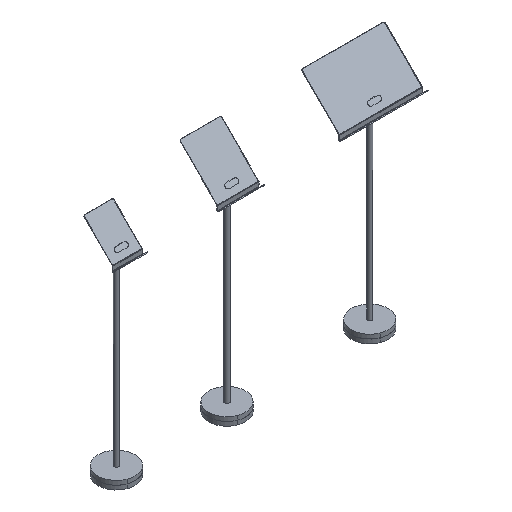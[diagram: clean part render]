
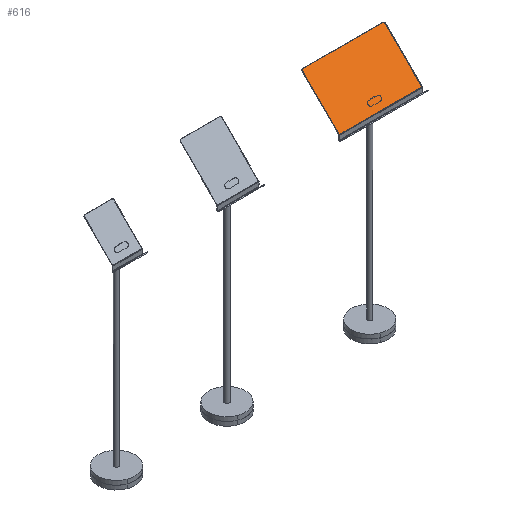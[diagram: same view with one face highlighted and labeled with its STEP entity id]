
A CAD part, isometric view. The second image highlights one B-rep face of the part: STEP entity #616.
In plain terms, the highlighted planar face has unit normal (0, -0.707, 0.707).
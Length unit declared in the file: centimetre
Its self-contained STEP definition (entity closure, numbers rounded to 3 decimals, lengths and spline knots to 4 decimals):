
#616=ADVANCED_FACE('',(#754),#2295,.T.);
#754=FACE_OUTER_BOUND('',#896,.T.);
#896=EDGE_LOOP('',(#1319));
#1319=ORIENTED_EDGE('',*,*,#1745,.F.);
#1745=EDGE_CURVE('',#2167,#2167,#1967,.T.);
#1967=(
BOUNDED_CURVE()
B_SPLINE_CURVE(3,(#3579,#3580,#3581,#3582,#3583,#3584,#3585,#3586,#3587,
#3588,#3589,#3590,#3591,#3592,#3593,#3594,#3595,#3596,#3597),
 .UNSPECIFIED.,.T.,.F.)
B_SPLINE_CURVE_WITH_KNOTS((4,3,3,3,3,3,4),(-0.2807,-0.0047,0.4353,
0.7114,2.2822,2.7082,4.279),
 .UNSPECIFIED.)
CURVE()
GEOMETRIC_REPRESENTATION_ITEM()
RATIONAL_B_SPLINE_CURVE((1.,1.,1.,1.,1.,1.,1.,1.,1.,1.,0.805,
0.805,1.,1.,1.,1.,0.805,0.805,1.))
REPRESENTATION_ITEM('')
);
#2167=VERTEX_POINT('',#3578);
#2295=PLANE('',#2492);
#2492=AXIS2_PLACEMENT_3D('',#3577,#2634,$);
#2634=DIRECTION('',(0.,-0.707,0.707));
#3577=CARTESIAN_POINT('',(537.2344,142.6242,1187.1523));
#3578=CARTESIAN_POINT('',(977.4707,137.6703,1182.2014));
#3579=CARTESIAN_POINT('',(977.4707,137.6703,1182.2014));
#3580=CARTESIAN_POINT('',(977.4707,72.5513,1117.1225));
#3581=CARTESIAN_POINT('',(977.4707,7.4324,1052.0436));
#3582=CARTESIAN_POINT('',(977.4707,-57.6866,986.9647));
#3583=CARTESIAN_POINT('',(830.7253,-57.6866,986.9647));
#3584=CARTESIAN_POINT('',(683.9798,-57.6866,986.9647));
#3585=CARTESIAN_POINT('',(537.2344,-57.6866,986.9647));
#3586=CARTESIAN_POINT('',(537.2344,7.4324,1052.0436));
#3587=CARTESIAN_POINT('',(537.2344,72.5513,1117.1225));
#3588=CARTESIAN_POINT('',(537.2344,137.6703,1182.2014));
#3589=CARTESIAN_POINT('',(537.2344,140.5723,1185.1016));
#3590=CARTESIAN_POINT('',(540.1354,142.6242,1187.1523));
#3591=CARTESIAN_POINT('',(544.2381,142.6242,1187.1523));
#3592=CARTESIAN_POINT('',(686.3144,142.6242,1187.1523));
#3593=CARTESIAN_POINT('',(828.3907,142.6242,1187.1523));
#3594=CARTESIAN_POINT('',(970.467,142.6242,1187.1523));
#3595=CARTESIAN_POINT('',(974.5697,142.6242,1187.1523));
#3596=CARTESIAN_POINT('',(977.4707,140.5723,1185.1016));
#3597=CARTESIAN_POINT('',(977.4707,137.6703,1182.2014));
